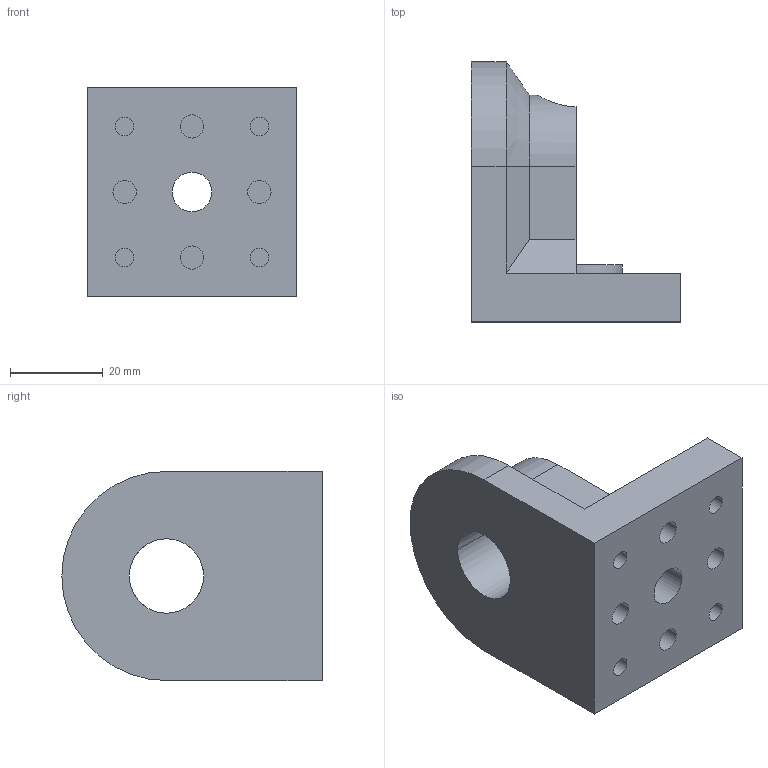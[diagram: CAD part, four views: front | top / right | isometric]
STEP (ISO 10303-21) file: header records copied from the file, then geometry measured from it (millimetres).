
FILE_DESCRIPTION((''),'2;1');
FILE_NAME('GIS450P_1','2002-12-27T',('Lipro doo'),('Lipro d.o.o.'),'PRO/ENGINEER BY PARAMETRIC TECHNOLOGY CORPORATION, 2001150','PRO/ENGINEER BY PARAMETRIC TECHNOLOGY CORPORATION, 2001150','');
FILE_SCHEMA(('CONFIG_CONTROL_DESIGN'));
Length unit declared in the file: millimetre
Products named in the file (1): GIS450P_1
Bounding box: 45 x 56 x 45 mm (x, y, z)
Volume: 44095.7 mm3; surface area: 13022.8 mm2
Topology: 1 solids, 1 shells, 51 faces, 114 edges, 74 vertices
Faces by surface type: cylinder 25, plane 24, cone 2
Entity records: 1550 total; most frequent: CARTESIAN_POINT 319, DIRECTION 263, ORIENTED_EDGE 228, EDGE_CURVE 114, AXIS2_PLACEMENT_3D 101, VERTEX_POINT 74, EDGE_LOOP 64, VECTOR 61
